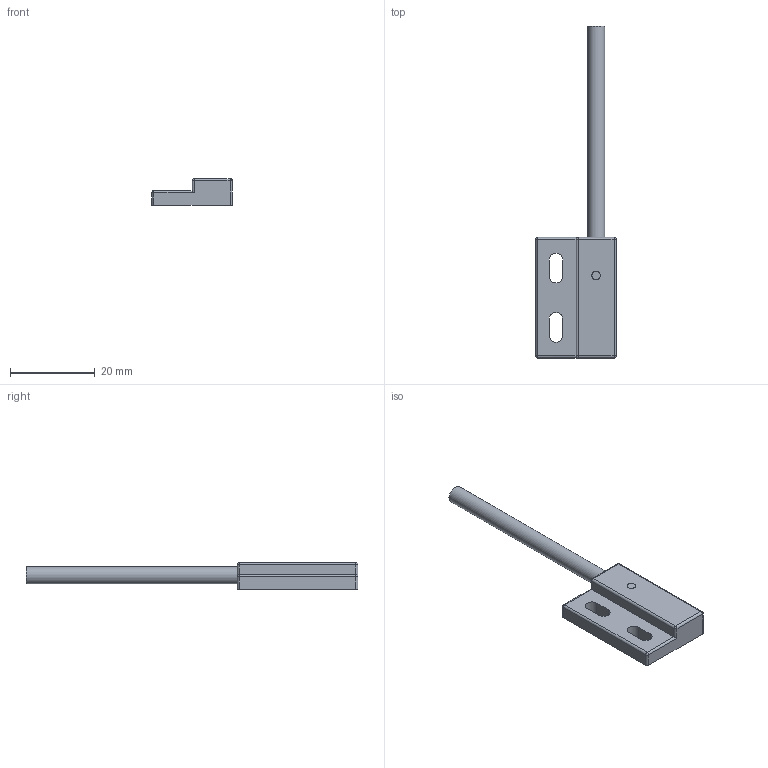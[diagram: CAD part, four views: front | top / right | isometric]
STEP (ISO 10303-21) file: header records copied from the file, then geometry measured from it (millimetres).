
FILE_DESCRIPTION(/* description */ ('Katalogmodell Elobau'),/* implementation_level */ '2;1');
FILE_NAME(/* name */ '151SG01003_A.stp',/* time_stamp */ '2014-04-25T10:21:59+02:00',/* author */ ('Elobau GmbH & Co. KG'),/* organization */ ('Elobau GmbH & Co. KG'),/* preprocessor_version */ 'ST-DEVELOPER v15',/* originating_system */ 'SIEMENS PLM Software NX 8.5',/* authorisation */ '');
FILE_SCHEMA (('AUTOMOTIVE_DESIGN { 1 0 10303 214 3 1 1 1 }'));
Length unit declared in the file: millimetre
Products named in the file (1): 151SG01003-1_A
Bounding box: 19 x 78.5 x 6.35 mm (x, y, z)
Volume: 2914.6 mm3; surface area: 2570.4 mm2
Topology: 1 solids, 1 shells, 54 faces, 128 edges, 75 vertices
Faces by surface type: plane 25, cylinder 23, sphere 6
Full cylindrical faces by diameter (mm): 2 x1, 4.1 x1
Entity records: 1526 total; most frequent: DIRECTION 273, CARTESIAN_POINT 248, ORIENTED_EDGE 238, EDGE_CURVE 119, AXIS2_PLACEMENT_3D 99, LINE 75, VECTOR 75, VERTEX_POINT 74
